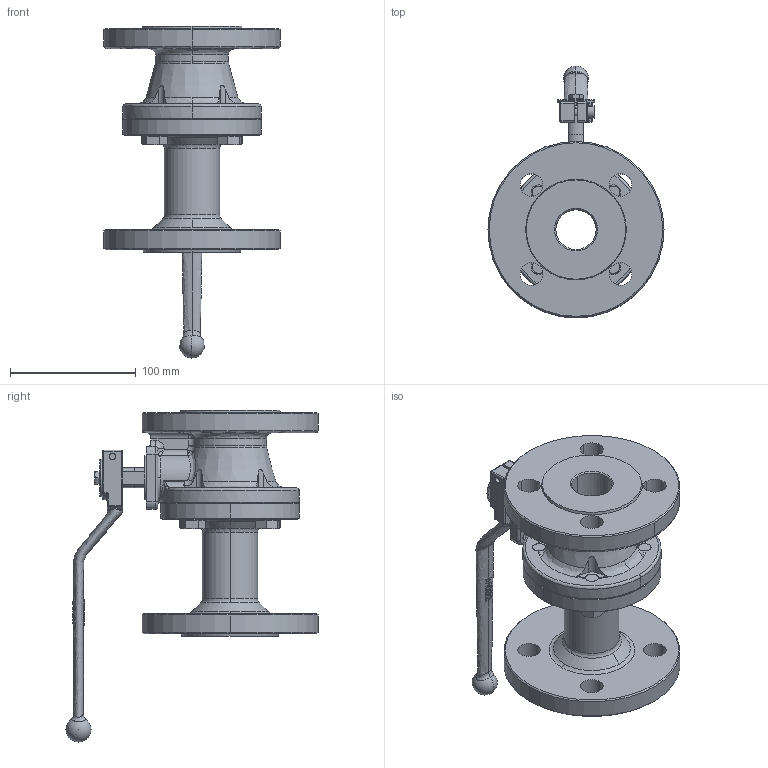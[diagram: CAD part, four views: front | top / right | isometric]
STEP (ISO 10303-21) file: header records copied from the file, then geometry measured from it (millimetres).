
FILE_DESCRIPTION (( 'STEP AP214' ), '1' );
FILE_NAME ('0340032.STEP', '2015-06-15T07:42:47', ( 'pere' ), ( '' ), 'SwSTEP 2.0', 'SolidWorks 2013', '' );
FILE_SCHEMA (( 'AUTOMOTIVE_DESIGN' ));
Length unit declared in the file: millimetre
Products named in the file (9): DIN 912 M6 x 16 --- 16C_DIN 912 M6 x 16 --- 16C; ISO 4017 - M12 x 25-C_ISO 4017 - M12 x 25-C; ISO 4017 - M6 x 12-C; 5130_17; M032; EPI32Q; 0340032L; 0540032C; 0340032
Assembly tree (11 placements, depth 2):
  0340032
    0540032C
    0340032L
    EPI32Q
    M032
    5130_17
    ISO 4017 - M6 x 12-C
    ISO 4017 - M12 x 25-C_ISO 4017 - M12 x 25-C  x4
    DIN 912 M6 x 16 --- 16C_DIN 912 M6 x 16 --- 16C
Bounding box: 140 x 200.5 x 264 mm (x, y, z)
Volume: 882385 mm3; surface area: 191863.6 mm2
Topology: 11 solids, 11 shells, 685 faces, 1690 edges, 1020 vertices
Faces by surface type: cylinder 208, plane 199, bspline 127, cone 107, torus 30, sphere 14
Entity records: 31350 total; most frequent: CARTESIAN_POINT 17337, ORIENTED_EDGE 2950, DIRECTION 2644, EDGE_CURVE 1475, AXIS2_PLACEMENT_3D 1075, VERTEX_POINT 915, EDGE_LOOP 674, ADVANCED_FACE 598
